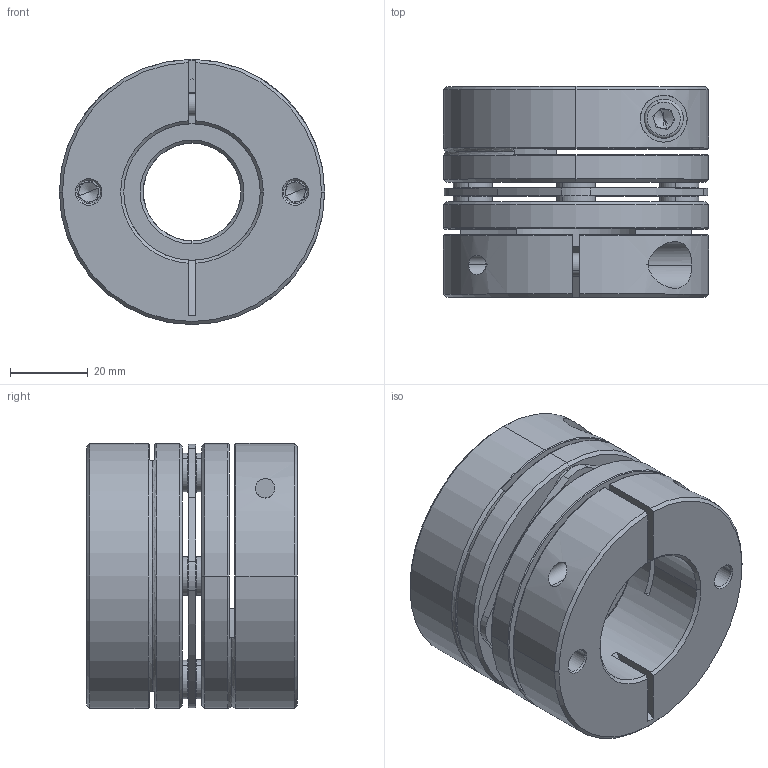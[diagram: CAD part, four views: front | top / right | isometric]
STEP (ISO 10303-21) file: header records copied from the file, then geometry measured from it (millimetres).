
FILE_DESCRIPTION (( 'STEP AP203' ), '1' );
FILE_NAME ('LD1-D68-25-35.STEP', '2021-10-26T08:02:47', ( '' ), ( '' ), 'SwSTEP 2.0', 'SolidWorks 2018', '' );
FILE_SCHEMA (( 'CONFIG_CONTROL_DESIGN' ));
Length unit declared in the file: millimetre
Products named in the file (2): LD1-D68-25-35; 錨璃101^LD1-D68
Assembly tree (1 placements, depth 2):
  LD1-D68-25-35
    錨璃101^LD1-D68
Bounding box: 68 x 54 x 68 mm (x, y, z)
Volume: 132173.2 mm3; surface area: 44972 mm2
Topology: 1 solids, 15 shells, 441 faces, 1047 edges, 642 vertices
Faces by surface type: cylinder 161, plane 136, cone 122, torus 22
Entity records: 13321 total; most frequent: CARTESIAN_POINT 2590, DIRECTION 2405, ORIENTED_EDGE 2062, EDGE_CURVE 1031, AXIS2_PLACEMENT_3D 977, VERTEX_POINT 642, CIRCLE 532, EDGE_LOOP 521
